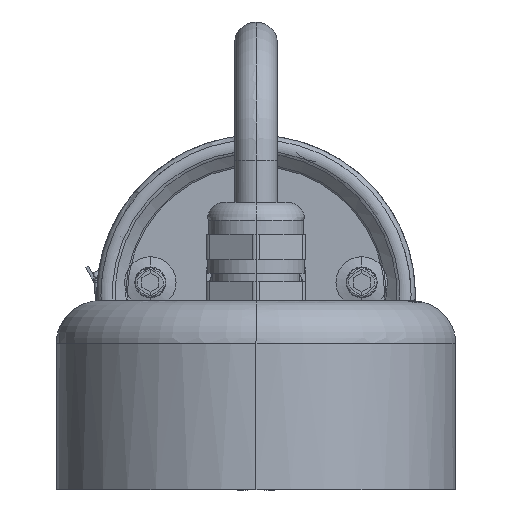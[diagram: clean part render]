
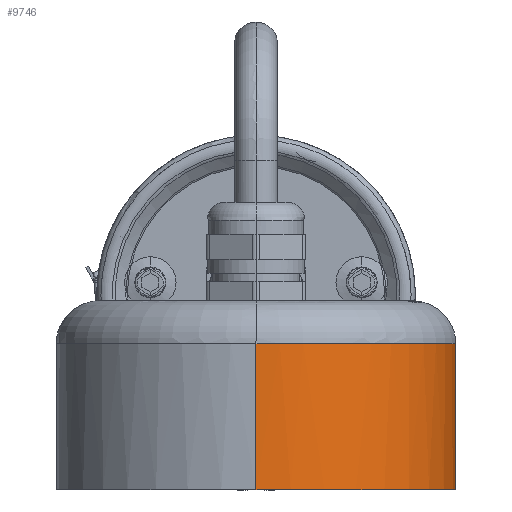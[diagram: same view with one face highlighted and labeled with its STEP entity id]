
A CAD part, front view. The second image highlights one B-rep face of the part: STEP entity #9746.
In plain terms, the highlighted cylindrical face has radius 46.5 mm (diameter 93 mm), a partial arc.
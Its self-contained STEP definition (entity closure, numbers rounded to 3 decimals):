
#288=B_SPLINE_CURVE_WITH_KNOTS('',3,(#20032,#20033,#20034,#20035,#20036,
#20037,#20038,#20039,#20040),.UNSPECIFIED.,.F.,.F.,(4,1,1,1,1,1,4),(0.,
0.167,0.333,0.5,0.667,0.833,
1.),.UNSPECIFIED.);
#1292=FACE_OUTER_BOUND('',#1890,.T.);
#1890=EDGE_LOOP('',(#8948,#8949,#8950,#8951));
#2716=LINE('',#20232,#3542);
#2717=LINE('',#20233,#3543);
#3542=VECTOR('',#13405,304.8);
#3543=VECTOR('',#13406,304.8);
#3884=CIRCLE('',#10706,46.5);
#4744=VERTEX_POINT('',#19939);
#4745=VERTEX_POINT('',#20031);
#4760=VERTEX_POINT('',#20224);
#4761=VERTEX_POINT('',#20225);
#6136=EDGE_CURVE('',#4745,#4744,#288,.T.);
#6170=EDGE_CURVE('',#4760,#4761,#3884,.T.);
#6174=EDGE_CURVE('',#4760,#4744,#2716,.T.);
#6175=EDGE_CURVE('',#4745,#4761,#2717,.T.);
#8948=ORIENTED_EDGE('',*,*,#6136,.T.);
#8949=ORIENTED_EDGE('',*,*,#6174,.F.);
#8950=ORIENTED_EDGE('',*,*,#6170,.T.);
#8951=ORIENTED_EDGE('',*,*,#6175,.F.);
#9168=CYLINDRICAL_SURFACE('',#10709,46.5);
#9746=ADVANCED_FACE('',(#1292),#9168,.T.);
#10706=AXIS2_PLACEMENT_3D('',#20226,#13395,#13396);
#10709=AXIS2_PLACEMENT_3D('',#20231,#13403,#13404);
#13395=DIRECTION('center_axis',(0.,0.,1.));
#13396=DIRECTION('ref_axis',(0.,1.,0.));
#13403=DIRECTION('center_axis',(0.,0.,1.));
#13404=DIRECTION('ref_axis',(0.,1.,0.));
#13405=DIRECTION('',(0.,0.,1.));
#13406=DIRECTION('',(0.,0.,-1.));
#19939=CARTESIAN_POINT('',(0.,-46.5,34.021));
#20031=CARTESIAN_POINT('',(0.,46.5,34.021));
#20032=CARTESIAN_POINT('Ctrl Pts',(0.,46.5,
34.021));
#20033=CARTESIAN_POINT('Ctrl Pts',(8.216,46.682,34.021));
#20034=CARTESIAN_POINT('Ctrl Pts',(24.288,42.069,34.021));
#20035=CARTESIAN_POINT('Ctrl Pts',(42.167,24.358,34.021));
#20036=CARTESIAN_POINT('Ctrl Pts',(48.667,0.,
34.021));
#20037=CARTESIAN_POINT('Ctrl Pts',(42.167,-24.358,34.021));
#20038=CARTESIAN_POINT('Ctrl Pts',(24.288,-42.069,34.021));
#20039=CARTESIAN_POINT('Ctrl Pts',(8.216,-46.682,34.021));
#20040=CARTESIAN_POINT('Ctrl Pts',(0.,-46.5,
34.021));
#20224=CARTESIAN_POINT('',(0.,-46.5,0.));
#20225=CARTESIAN_POINT('',(0.,46.5,0.));
#20226=CARTESIAN_POINT('Origin',(0.,0.,
0.));
#20231=CARTESIAN_POINT('Origin',(0.,0.,
485.821));
#20232=CARTESIAN_POINT('',(0.,-46.5,0.));
#20233=CARTESIAN_POINT('',(0.,46.5,34.021));
